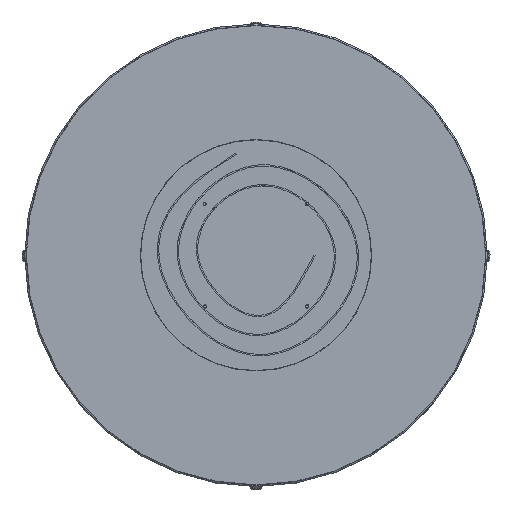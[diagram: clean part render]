
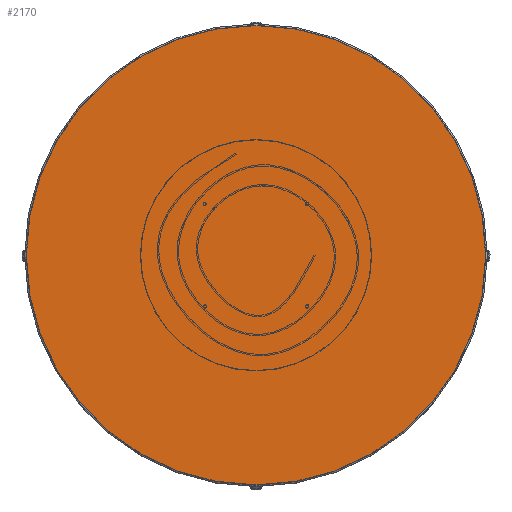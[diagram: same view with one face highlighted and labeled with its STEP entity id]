
A CAD part, top view. The second image highlights one B-rep face of the part: STEP entity #2170.
In plain terms, the highlighted planar face has unit normal (0, 0, 1).
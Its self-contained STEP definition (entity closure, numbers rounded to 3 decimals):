
#2170=ADVANCED_FACE('',(#5663),#5664,.T.);
#5663=FACE_OUTER_BOUND('',#12847,.T.);
#5664=PLANE('',#12848);
#12847=EDGE_LOOP('',(#131561));
#12848=AXIS2_PLACEMENT_3D('',#131562,#131563,#131564);
#131561=ORIENTED_EDGE('',*,*,#159188,.T.);
#131562=CARTESIAN_POINT('',(0.0,0.0,0.0));
#131563=DIRECTION('',(0.0,0.0,1.0));
#131564=DIRECTION('',(1.0,0.0,0.0));
#159188=EDGE_CURVE('',#167006,#167006,#167007,.T.);
#167006=VERTEX_POINT('',#179969);
#167007=CIRCLE('',#179970,347.5);
#179969=CARTESIAN_POINT('',(347.5,0.0,0.0));
#179970=AXIS2_PLACEMENT_3D('',#231019,#231020,#231021);
#231019=CARTESIAN_POINT('',(0.0,0.0,0.0));
#231020=DIRECTION('',(0.0,0.0,1.0));
#231021=DIRECTION('',(1.0,0.0,0.0));
